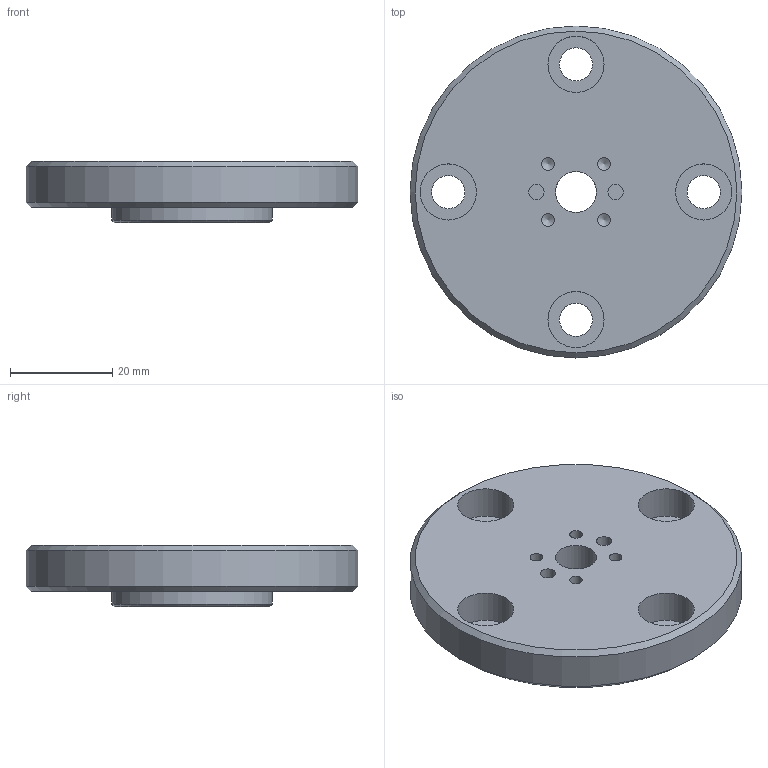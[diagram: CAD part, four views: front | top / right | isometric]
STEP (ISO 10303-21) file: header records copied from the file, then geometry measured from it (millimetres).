
FILE_DESCRIPTION(('STEP AP214'),'1');
FILE_NAME('PCD50.stp','2021-05-24T23:58:31',(' '),(' '),'Spatial InterOp 3D',' ',' ');
FILE_SCHEMA(('AUTOMOTIVE_DESIGN { 1 0 10303 214 1 1 1 1 }'));
Length unit declared in the file: millimetre
Products named in the file (1): PCD50
Bounding box: 65 x 65 x 12 mm (x, y, z)
Volume: 28194.3 mm3; surface area: 9981.6 mm2
Topology: 1 solids, 1 shells, 39 faces, 77 edges, 48 vertices
Faces by surface type: cylinder 18, cone 11, plane 10
Full cylindrical faces by diameter (mm): 2.5 x4, 3 x2, 6 x1, 6.5 x4, 8 x1, 11 x4, 31.5 x1, 65 x1
Entity records: 1188 total; most frequent: DIRECTION 166, CARTESIAN_POINT 130, EDGE_LOOP 86, ORIENTED_EDGE 86, AXIS2_PLACEMENT_3D 83, FACE_OUTER_BOUND 57, VERTEX_POINT 47, EDGE_CURVE 43
